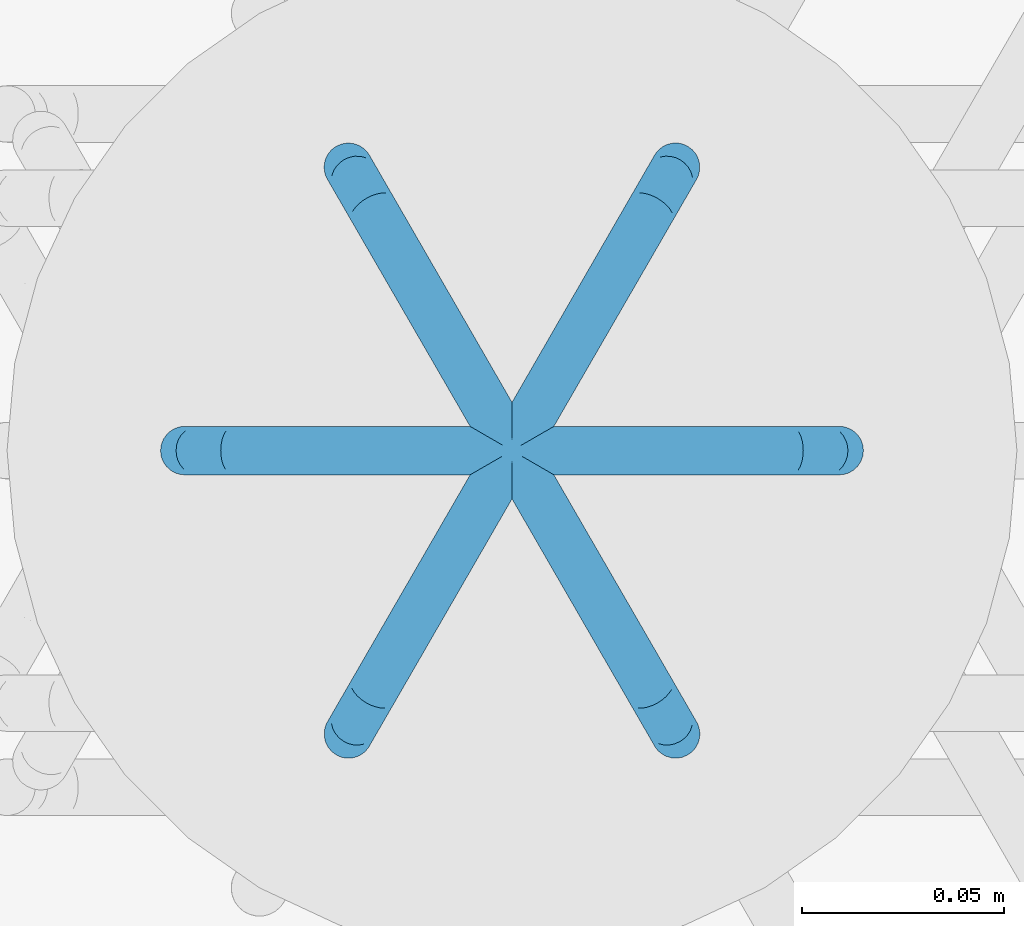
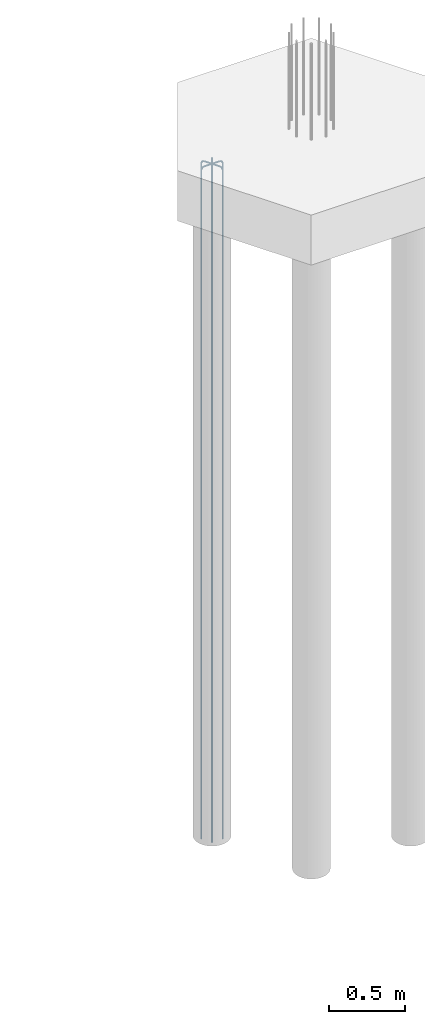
# One storey, part 7 of 23: 1 reinforcing bar.
"""IFC2X3 building model written with IfcOpenShell, lengths in metres."""

import ifcopenshell
import ifcopenshell.guid

model = None  # the IFC model being written
_history = None  # IfcOwnerHistory: only IFC2X3 demands one
_inside = {}  # id of a spatial element -> (the spatial element, [elements in it])
_under = {}  # id of a project, library or spatial element -> (it, [spatial elements below it])
_declared = {}  # id of a project -> (the project, [libraries it declares])
_typed = {}  # id of a type object -> (the type object, [elements of that type])
_made_of = {}  # id of a material, layer set ... -> (it, [elements and type objects made of it])


def new_model(schema):
    """Start an empty IFC model of exactly this schema.

    Asked for "IFC4X3", IfcOpenShell would pick the latest addendum, in which some entities
    have other attributes; the version numbers below select the first issue.
    IFC2X3 requires an IfcOwnerHistory on every rooted entity: one is made here for all.
    """
    global model, _history
    if schema == "IFC4X3":
        model = ifcopenshell.file(schema_version=(4, 3, 0, 0))
    else:
        model = ifcopenshell.file(schema=schema)
    _inside.clear()
    _under.clear()
    _declared.clear()
    _typed.clear()
    _made_of.clear()
    _history = None
    if model.schema == "IFC2X3":
        org = make("IfcOrganization", Name="unknown")
        user = make(
            "IfcPersonAndOrganization",
            ThePerson=make("IfcPerson", FamilyName="unknown"),
            TheOrganization=org,
        )
        app = make(
            "IfcApplication",
            ApplicationDeveloper=org,
            Version="unknown",
            ApplicationFullName="unknown",
            ApplicationIdentifier="unknown",
        )
        _history = make(
            "IfcOwnerHistory",
            OwningUser=user,
            OwningApplication=app,
            ChangeAction="ADDED",
            CreationDate=0,
        )
    return model


def make(cls, **values):
    """One entity of the class cls with the attributes given. An attribute that is None is left unset."""
    return model.create_entity(
        cls, **{name: value for name, value in values.items() if value is not None}
    )


def entity(cls, *values):
    """Any entity or typed value of the class cls, its attributes in the order of the schema. None: left unset."""
    e = model.create_entity(cls)
    for i, value in enumerate(values):
        if value is not None:
            e[i] = value
    return e


def rooted(cls, **values):
    """An entity with a GlobalId (a new one), such as an element, a storey or a relation."""
    return make(cls, GlobalId=ifcopenshell.guid.new(), OwnerHistory=_history, **values)


def si_unit(unit_type, name, prefix=None):
    """IfcSIUnit, for example si_unit("LENGTHUNIT", "METRE", prefix="MILLI")."""
    return make("IfcSIUnit", UnitType=unit_type, Prefix=prefix, Name=name)


def assignment(units):
    """IfcUnitAssignment: the units of a project."""
    return None if units is None else make("IfcUnitAssignment", Units=units)


def point(xyz):
    """IfcCartesianPoint."""
    return None if xyz is None else make("IfcCartesianPoint", Coordinates=xyz)


def direction(xyz):
    """IfcDirection."""
    return None if xyz is None else make("IfcDirection", DirectionRatios=xyz)


def frame(location, z_axis=None, x_axis=None):
    """IfcAxis2Placement3D, a coordinate frame: its origin and axes. An axis left out is left unset."""
    return make(
        "IfcAxis2Placement3D",
        Location=point(location),
        Axis=direction(z_axis),
        RefDirection=direction(x_axis),
    )


def origin():
    """The frame at (0, 0, 0) with its axes left unset."""
    return frame((0.0, 0.0, 0.0))


def place(relative_to, where):
    """IfcLocalPlacement: puts the frame where relative to a parent placement (None: the world)."""
    return make(
        "IfcLocalPlacement", PlacementRelTo=relative_to, RelativePlacement=where
    )


def context(
    kind, dimensions, precision=None, world=None, true_north=None, identifier=None
):
    """IfcGeometricRepresentationContext, for example the 3D "Model" context."""
    return make(
        "IfcGeometricRepresentationContext",
        ContextIdentifier=identifier,
        ContextType=kind,
        CoordinateSpaceDimension=dimensions,
        Precision=precision,
        WorldCoordinateSystem=world,
        TrueNorth=true_north,
    )


def subcontext(parent, identifier, kind, view, scale=None):
    """IfcGeometricRepresentationSubContext, for example "Body" below "Model"."""
    return make(
        "IfcGeometricRepresentationSubContext",
        ContextIdentifier=identifier,
        ContextType=kind,
        ParentContext=parent,
        TargetScale=scale,
        TargetView=view,
    )


def project(units=None, contexts=None):
    """IfcProject with its units and contexts."""
    return rooted(
        "IfcProject",
        Name="project",
        RepresentationContexts=contexts,
        UnitsInContext=assignment(units),
    )


def spatial(cls, under=None, at=None, **own):
    """A site, building, storey or space (cls), placed at a placement, below another one or the project."""
    s = rooted(cls, ObjectPlacement=at, **own)
    if under is not None:
        _under.setdefault(under.id(), (under, []))[1].append(s)
    return s


def shape(context_of_items, identifier, shape_type, items):
    """IfcShapeRepresentation: the items that make up one representation, for example the "Body"."""
    return make(
        "IfcShapeRepresentation",
        ContextOfItems=context_of_items,
        RepresentationIdentifier=identifier,
        RepresentationType=shape_type,
        Items=items,
    )


def source(mapping_origin, context_of_items, identifier, shape_type, items):
    """IfcRepresentationMap: a shape defined once, which mapped items show again and again."""
    return make(
        "IfcRepresentationMap",
        MappingOrigin=mapping_origin,
        MappedRepresentation=shape(context_of_items, identifier, shape_type, items),
    )


def transform(
    local_origin,
    x_axis=None,
    y_axis=None,
    z_axis=None,
    scale=None,
    scale2=None,
    scale3=None,
    uniform=True,
):
    """IfcCartesianTransformationOperator3D, or its non-uniform kind. x_axis, y_axis, z_axis: its Axis1, 2, 3."""
    if uniform:
        return make(
            "IfcCartesianTransformationOperator3D",
            Axis1=direction(x_axis),
            Axis2=direction(y_axis),
            LocalOrigin=point(local_origin),
            Scale=scale,
            Axis3=direction(z_axis),
        )
    return make(
        "IfcCartesianTransformationOperator3DnonUniform",
        Axis1=direction(x_axis),
        Axis2=direction(y_axis),
        LocalOrigin=point(local_origin),
        Scale=scale,
        Axis3=direction(z_axis),
        Scale2=scale2,
        Scale3=scale3,
    )


def mapped(mapping_source, mapping_target):
    """IfcMappedItem: shows the shape of a source again, moved by a transform."""
    return make(
        "IfcMappedItem", MappingSource=mapping_source, MappingTarget=mapping_target
    )


def made_of(thing, what):
    """Note that an element or type object is made of a material, layer set ...; save() writes the relation."""
    if what is not None:
        _made_of.setdefault(what.id(), (what, []))[1].append(thing)
    return thing


def element(
    cls,
    number,
    at=None,
    inside=None,
    cuts=None,
    type_object=None,
    material=None,
    context=None,
    identifier="Body",
    shape_type=None,
    held_by="IfcProductDefinitionShape",
    body=None,
    shapes=None,
    **own,
):
    """One element of the class cls, such as IfcWall. Its Tag is "e" and its number.

    at: its placement. inside: the storey or other place that contains it. cuts: it is an
    opening in that element (IfcRelVoidsElement). A single representation is given by context,
    identifier, shape_type and body (its items); several are given by shapes. held_by: the class
    of the entity that holds the representations. save() writes the other relations.
    """
    e = rooted(cls, Tag="e%d" % number, ObjectPlacement=at, **own)
    if body is not None:
        shapes = [shape(context, identifier, shape_type, body)]
    if shapes is not None:
        e.Representation = make(held_by, Representations=shapes)
    if inside is not None:
        _inside.setdefault(inside.id(), (inside, []))[1].append(e)
    if cuts is not None:
        rooted(
            "IfcRelVoidsElement", RelatingBuildingElement=cuts, RelatedOpeningElement=e
        )
    if type_object is not None:
        _typed.setdefault(type_object.id(), (type_object, []))[1].append(e)
    return made_of(e, material)


def aggregate(whole, parts):
    """IfcRelAggregates: a whole, such as a stair, and the parts it consists of."""
    return rooted("IfcRelAggregates", RelatingObject=whole, RelatedObjects=parts)


def save(model, path):
    """Write the relations noted so far, then the file.

    IfcRelAggregates (storeys below a building ...), IfcRelContainedInSpatialStructure (elements
    in a storey), IfcRelDefinesByType, IfcRelAssociatesMaterial and IfcRelDeclares: one each for
    every whole, place, type object, material and project.
    """
    for whole, parts in _under.values():
        aggregate(whole, parts)
    for where, things in _inside.values():
        rooted(
            "IfcRelContainedInSpatialStructure",
            RelatedElements=things,
            RelatingStructure=where,
        )
    for kind, things in _typed.values():
        rooted("IfcRelDefinesByType", RelatedObjects=things, RelatingType=kind)
    for what, things in _made_of.values():
        rooted("IfcRelAssociatesMaterial", RelatedObjects=things, RelatingMaterial=what)
    for by, libraries in _declared.values():
        rooted("IfcRelDeclares", RelatingContext=by, RelatedDefinitions=libraries)
    model.write(path)


model = new_model("IFC2X3")

# Units and contexts
model_context = context("Model", 3, precision=0.0, world=origin(), true_north=direction((0.0, 1.0)))
plan_context = context("Plan", 3, precision=0.0, world=origin(), true_north=direction((0.0, 1.0)))
body_context = subcontext(model_context, "Body", "Model", "MODEL_VIEW", scale=1.0)
ifc_project = project(units=[si_unit("LENGTHUNIT", "METRE"), si_unit("AREAUNIT", "SQUARE_METRE"), si_unit("VOLUMEUNIT", "CUBIC_METRE"), si_unit("PLANEANGLEUNIT", "RADIAN"), si_unit("THERMODYNAMICTEMPERATUREUNIT", "DEGREE_CELSIUS"), si_unit("FORCEUNIT", "NEWTON"), si_unit("MASSUNIT", "GRAM", prefix="KILO")], contexts=[model_context, plan_context])

# Site, building, storey
placement = place(None, origin())
site = spatial("IfcSite", under=ifc_project, at=placement, Name="Default Site", CompositionType="ELEMENT")
building = spatial("IfcBuilding", under=site, at=placement, Name="Default Building", CompositionType="ELEMENT")
storey_placement = place(placement, frame((0.0, 0.0, 0.0), z_axis=(1.0, 0.0, 0.0), x_axis=(0.0, 0.0, 1.0)))
storey = spatial("IfcBuildingStorey", under=building, at=storey_placement, Name="Piano 0", CompositionType="ELEMENT", Elevation=0.0)

# Reinforcing bar
shared_shape_1 = source(origin(), body_context, None, "AdvancedSweptSolid", [
    entity("IfcSweptDiskSolid", entity("IfcCompositeCurve", [entity("IfcCompositeCurveSegment", "CONTINUOUS", True, entity("IfcPolyline", [entity("IfcCartesianPoint", [0.0, 0.0, 0.0]), entity("IfcCartesianPoint", [-0.096, 0.0, 0.0]), entity("IfcCartesianPoint", [-0.108, 0.0, -0.003215]), entity("IfcCartesianPoint", [-0.116785, 0.0, -0.012]), entity("IfcCartesianPoint", [-0.12, 0.0, -0.024]), entity("IfcCartesianPoint", [-0.12, 0.0, -5.366])]))], False), 0.006, 0.0, 0.0),
])
shared_shape_2 = source(origin(), body_context, None, "AdvancedSweptSolid", [
    entity("IfcSweptDiskSolid", entity("IfcCompositeCurve", [entity("IfcCompositeCurveSegment", "CONTINUOUS", True, entity("IfcPolyline", [entity("IfcCartesianPoint", [0.0, 0.0, 0.0]), entity("IfcCartesianPoint", [-0.096, 0.0, 0.0]), entity("IfcCartesianPoint", [-0.108, 0.0, -0.003215]), entity("IfcCartesianPoint", [-0.116785, 0.0, -0.012]), entity("IfcCartesianPoint", [-0.12, 0.0, -0.024]), entity("IfcCartesianPoint", [-0.12, 0.0, -5.366])]))], False), 0.006, 0.0, 0.0),
])
shared_shape_3 = source(origin(), body_context, None, "AdvancedSweptSolid", [
    entity("IfcSweptDiskSolid", entity("IfcCompositeCurve", [entity("IfcCompositeCurveSegment", "CONTINUOUS", True, entity("IfcPolyline", [entity("IfcCartesianPoint", [0.0, 0.0, 0.0]), entity("IfcCartesianPoint", [-0.096, 0.0, 0.0]), entity("IfcCartesianPoint", [-0.108, 0.0, -0.003215]), entity("IfcCartesianPoint", [-0.116785, 0.0, -0.012]), entity("IfcCartesianPoint", [-0.12, 0.0, -0.024]), entity("IfcCartesianPoint", [-0.12, 0.0, -5.366])]))], False), 0.006, 0.0, 0.0),
])
shared_shape_4 = source(origin(), body_context, None, "AdvancedSweptSolid", [
    entity("IfcSweptDiskSolid", entity("IfcCompositeCurve", [entity("IfcCompositeCurveSegment", "CONTINUOUS", True, entity("IfcPolyline", [entity("IfcCartesianPoint", [0.0, 0.0, 0.0]), entity("IfcCartesianPoint", [-0.096, 0.0, 0.0]), entity("IfcCartesianPoint", [-0.108, 0.0, -0.003215]), entity("IfcCartesianPoint", [-0.116785, 0.0, -0.012]), entity("IfcCartesianPoint", [-0.12, 0.0, -0.024]), entity("IfcCartesianPoint", [-0.12, 0.0, -5.366])]))], False), 0.006, 0.0, 0.0),
])
shared_shape_5 = source(origin(), body_context, None, "AdvancedSweptSolid", [
    entity("IfcSweptDiskSolid", entity("IfcCompositeCurve", [entity("IfcCompositeCurveSegment", "CONTINUOUS", True, entity("IfcPolyline", [entity("IfcCartesianPoint", [0.0, 0.0, 0.0]), entity("IfcCartesianPoint", [-0.096, 0.0, 0.0]), entity("IfcCartesianPoint", [-0.108, 0.0, -0.003215]), entity("IfcCartesianPoint", [-0.116785, 0.0, -0.012]), entity("IfcCartesianPoint", [-0.12, 0.0, -0.024]), entity("IfcCartesianPoint", [-0.12, 0.0, -5.366])]))], False), 0.006, 0.0, 0.0),
])
shared_shape_6 = source(origin(), body_context, None, "AdvancedSweptSolid", [
    entity("IfcSweptDiskSolid", entity("IfcCompositeCurve", [entity("IfcCompositeCurveSegment", "CONTINUOUS", True, entity("IfcPolyline", [entity("IfcCartesianPoint", [0.0, 0.0, 0.0]), entity("IfcCartesianPoint", [-0.096, 0.0, 0.0]), entity("IfcCartesianPoint", [-0.108, 0.0, -0.003215]), entity("IfcCartesianPoint", [-0.116785, 0.0, -0.012]), entity("IfcCartesianPoint", [-0.12, 0.0, -0.024]), entity("IfcCartesianPoint", [-0.12, 0.0, -5.366])]))], False), 0.006, 0.0, 0.0),
])
element("IfcReinforcingBar", 1, at=placement, inside=storey, Name="Arm Principale; Palo:2 Filo:3 [Piano:0]", BarLength=32.916, BarRole="MAIN", BarSurface="TEXTURED", NominalDiameter=0.012, shapes=[
    shape(body_context, None, "MappedRepresentation", [mapped(shared_shape_1, transform((7.289, 0.0, -0.034))), mapped(shared_shape_2, transform((7.2695, 0.033775, -0.034), x_axis=(0.5, 0.866025, 0.0), y_axis=(-0.866025, 0.5, 0.0))), mapped(shared_shape_3, transform((7.2305, 0.033775, -0.034), x_axis=(-0.5, 0.866025, 0.0), y_axis=(-0.866025, -0.5, 0.0))), mapped(shared_shape_4, transform((7.211, 0.0, -0.034), x_axis=(-1.0, 0.0, 0.0), y_axis=(0.0, -1.0, 0.0))), mapped(shared_shape_5, transform((7.2305, -0.033775, -0.034), x_axis=(-0.5, -0.866025, 0.0), y_axis=(0.866025, -0.5, 0.0))), mapped(shared_shape_6, transform((7.2695, -0.033775, -0.034), x_axis=(0.5, -0.866025, 0.0), y_axis=(0.866025, 0.5, 0.0)))]),
])

save(model, "model.ifc")
